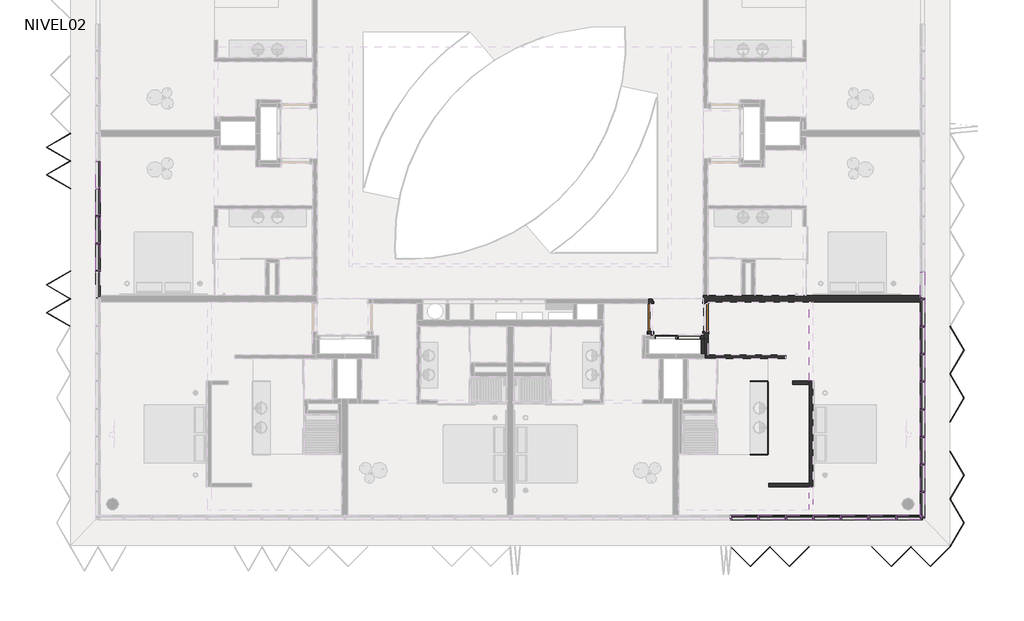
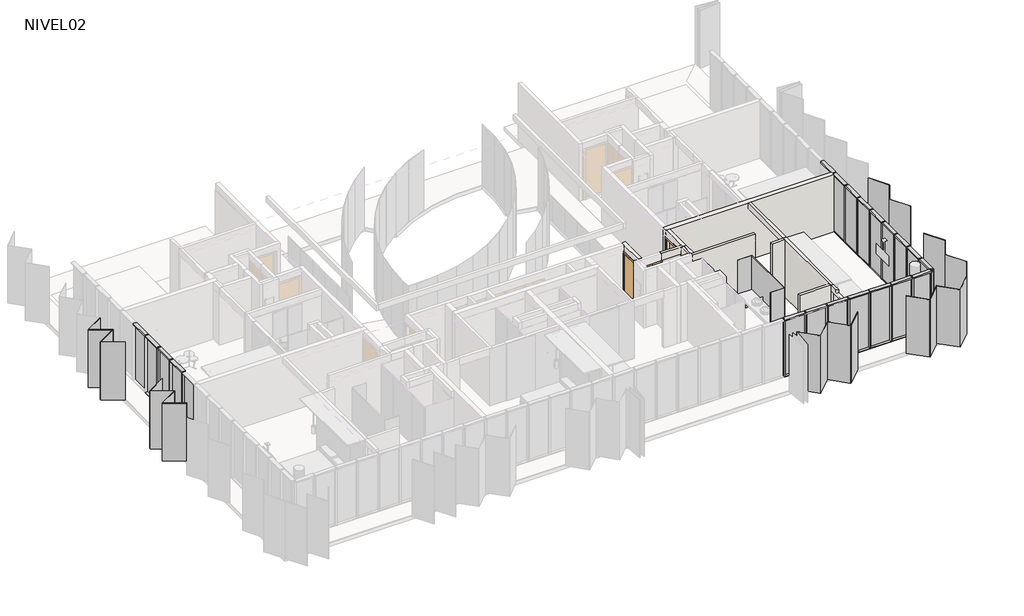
# One storey, part 4 of 9: 59 members, 26 plates, 14 walls, 3 doors.
"""IFC4 building model written with IfcOpenShell, lengths in millimetres."""

from ifc_helpers import new_model, si_unit, frame, origin, place, context, project, spatial, polyline, outline, extrude, faceted_brep, transform, mapped, element, save
from components import m_single_flush_910x_224_a4f79d59, m_single_flush_910x_224_d199ccfa, puerta_closet_shaft_75_x_232cm_9b8c6cb1, rectangular_mullion_50_x_150mm_324a6438, rectangular_mullion_50_x_150mm_d09437e2, rectangular_mullion_50_x_150mm_5dc04e1f, rectangular_mullion_50_x_150mm_33c2bde1, rectangular_mullion_50_x_150mm_da4cfd0d, folding_hd_folding_hd_45_0b72d655, folding_hd_folding_hd_60_29c1f600, plate_a966da8b, system_panel_cr_shower_91adf229, system_panel_cr_shower_8ff19449, system_panel_cr_shower_4114597a, system_panel_glazed_8b1c2311, system_panel_glazed_24c908d7, system_panel_glazed_6ccc6dc1

model = new_model("IFC4")

# Units and contexts
model_context = context("Model", 3, world=origin())
ifc_project = project(units=[si_unit("LENGTHUNIT", "METRE", prefix="MILLI")], contexts=[model_context])

# Site, building, storey
site = spatial("IfcSite", under=ifc_project)
building = spatial("IfcBuilding", under=site)
storey = spatial("IfcBuildingStorey", under=building, Name="NIVEL02", Elevation=2500.0)

# Doors
placement = place(None, origin())
m_single_flush_910x_224_shape = m_single_flush_910x_224_a4f79d59(model_context)
element("IfcDoor", 1, ObjectType="M_Single-Flush : 910x 224", at=placement, inside=storey, context=model_context, shape_type="MappedRepresentation", body=[
    mapped(m_single_flush_910x_224_shape, transform((-2608.5934748, -883.5860759, 2500.0), x_axis=(0.0, 1.0, 0.0), y_axis=(-1.0, 0.0, 0.0), z_axis=(0.0, 0.0, 1.0))),
])
m_single_flush_910x_224_2_shape = m_single_flush_910x_224_d199ccfa(model_context)
element("IfcDoor", 2, ObjectType="M_Single-Flush : 910x 224", at=placement, inside=storey, context=model_context, shape_type="MappedRepresentation", body=[
    mapped(m_single_flush_910x_224_2_shape, transform((-798.5934748, -883.5860759, 2500.0), x_axis=(0.0, 1.0, 0.0), y_axis=(-1.0, 0.0, 0.0), z_axis=(0.0, 0.0, 1.0))),
])
puerta_closet_shaft_75_x_232cm_shape = puerta_closet_shaft_75_x_232cm_9b8c6cb1(model_context)
element("IfcDoor", 3, ObjectType="PUERTA CLOSET SHAFT : 75 x 232cm", at=placement, inside=storey, context=model_context, shape_type="MappedRepresentation", body=[
    mapped(puerta_closet_shaft_75_x_232cm_shape, transform((-947.061904, -1521.0860759, 2500.0), x_axis=(1.0, 0.0, 0.0), y_axis=(0.0, 1.0, 0.0), z_axis=(0.0, 0.0, 1.0))),
])

# Members
rectangular_mullion_50_x_150mm_shape = rectangular_mullion_50_x_150mm_324a6438(model_context)
element("IfcMember", 4, ObjectType="Rectangular Mullion : 50 x 150mm", at=placement, inside=storey, context=model_context, shape_type="MappedRepresentation", body=[
    mapped(rectangular_mullion_50_x_150mm_shape, transform((-20633.5934748, 3358.9139237, 5050.0), x_axis=(0.0, 0.0, 1.0), y_axis=(-1.0, 0.0, 0.0), z_axis=(0.0, -1.0, 0.0))),
])
element("IfcMember", 5, ObjectType="Rectangular Mullion : 50 x 150mm", at=placement, inside=storey, context=model_context, shape_type="MappedRepresentation", body=[
    mapped(rectangular_mullion_50_x_150mm_shape, transform((-20633.5934748, 2458.9139237, 5050.0), x_axis=(0.0, 0.0, 1.0), y_axis=(-1.0, 0.0, 0.0), z_axis=(0.0, -1.0, 0.0))),
])
element("IfcMember", 6, ObjectType="Rectangular Mullion : 50 x 150mm", at=placement, inside=storey, context=model_context, shape_type="MappedRepresentation", body=[
    mapped(rectangular_mullion_50_x_150mm_shape, transform((-20633.5934748, 1558.9139237, 5050.0), x_axis=(0.0, 0.0, 1.0), y_axis=(-1.0, 0.0, 0.0), z_axis=(0.0, -1.0, 0.0))),
])
element("IfcMember", 7, ObjectType="Rectangular Mullion : 50 x 150mm", at=placement, inside=storey, context=model_context, shape_type="MappedRepresentation", body=[
    mapped(rectangular_mullion_50_x_150mm_shape, transform((-20633.5934748, 658.9139237, 5050.0), x_axis=(0.0, 0.0, 1.0), y_axis=(-1.0, 0.0, 0.0), z_axis=(0.0, -1.0, 0.0))),
])
element("IfcMember", 8, ObjectType="Rectangular Mullion : 50 x 150mm", at=placement, inside=storey, context=model_context, shape_type="MappedRepresentation", body=[
    mapped(rectangular_mullion_50_x_150mm_shape, transform((-20633.5934748, 3308.9139237, 2480.0), x_axis=(0.0, 0.0, -1.0), y_axis=(-1.0, 0.0, 0.0), z_axis=(0.0, 1.0, 0.0))),
])
element("IfcMember", 9, ObjectType="Rectangular Mullion : 50 x 150mm", at=placement, inside=storey, context=model_context, shape_type="MappedRepresentation", body=[
    mapped(rectangular_mullion_50_x_150mm_shape, transform((-20633.5934748, 2408.9139237, 2480.0), x_axis=(0.0, 0.0, -1.0), y_axis=(-1.0, 0.0, 0.0), z_axis=(0.0, 1.0, 0.0))),
])
element("IfcMember", 10, ObjectType="Rectangular Mullion : 50 x 150mm", at=placement, inside=storey, context=model_context, shape_type="MappedRepresentation", body=[
    mapped(rectangular_mullion_50_x_150mm_shape, transform((-20633.5934748, 1508.9139237, 2480.0), x_axis=(0.0, 0.0, -1.0), y_axis=(-1.0, 0.0, 0.0), z_axis=(0.0, 1.0, 0.0))),
])
element("IfcMember", 11, ObjectType="Rectangular Mullion : 50 x 150mm", at=placement, inside=storey, context=model_context, shape_type="MappedRepresentation", body=[
    mapped(rectangular_mullion_50_x_150mm_shape, transform((-20633.5934748, 608.9139237, 2480.0), x_axis=(0.0, 0.0, -1.0), y_axis=(-1.0, 0.0, 0.0), z_axis=(0.0, 1.0, 0.0))),
])
element("IfcMember", 12, ObjectType="Rectangular Mullion : 50 x 150mm", at=placement, inside=storey, context=model_context, shape_type="MappedRepresentation", body=[
    mapped(rectangular_mullion_50_x_150mm_shape, transform((1841.4065252, -7416.0860759, 5050.0), x_axis=(0.0, 0.0, 1.0), y_axis=(0.0, 1.0, 0.0), z_axis=(-1.0, 0.0, 0.0))),
])
element("IfcMember", 13, ObjectType="Rectangular Mullion : 50 x 150mm", at=placement, inside=storey, context=model_context, shape_type="MappedRepresentation", body=[
    mapped(rectangular_mullion_50_x_150mm_shape, transform((941.4065252, -7416.0860759, 5050.0), x_axis=(0.0, 0.0, 1.0), y_axis=(0.0, 1.0, 0.0), z_axis=(-1.0, 0.0, 0.0))),
])
element("IfcMember", 14, ObjectType="Rectangular Mullion : 50 x 150mm", at=placement, inside=storey, context=model_context, shape_type="MappedRepresentation", body=[
    mapped(rectangular_mullion_50_x_150mm_shape, transform((41.4065252, -7416.0860759, 5050.0), x_axis=(0.0, 0.0, 1.0), y_axis=(0.0, 1.0, 0.0), z_axis=(-1.0, 0.0, 0.0))),
])
element("IfcMember", 15, ObjectType="Rectangular Mullion : 50 x 150mm", at=placement, inside=storey, context=model_context, shape_type="MappedRepresentation", body=[
    mapped(rectangular_mullion_50_x_150mm_shape, transform((3641.4065252, -7416.0860759, 5050.0), x_axis=(0.0, 0.0, 1.0), y_axis=(0.0, 1.0, 0.0), z_axis=(-1.0, 0.0, 0.0))),
])
element("IfcMember", 16, ObjectType="Rectangular Mullion : 50 x 150mm", at=placement, inside=storey, context=model_context, shape_type="MappedRepresentation", body=[
    mapped(rectangular_mullion_50_x_150mm_shape, transform((2741.4065252, -7416.0860759, 5050.0), x_axis=(0.0, 0.0, 1.0), y_axis=(0.0, 1.0, 0.0), z_axis=(-1.0, 0.0, 0.0))),
])
element("IfcMember", 17, ObjectType="Rectangular Mullion : 50 x 150mm", at=placement, inside=storey, context=model_context, shape_type="MappedRepresentation", body=[
    mapped(rectangular_mullion_50_x_150mm_shape, transform((4541.4065252, -7416.0860759, 5050.0), x_axis=(0.0, 0.0, 1.0), y_axis=(0.0, 1.0, 0.0), z_axis=(-1.0, 0.0, 0.0))),
])
element("IfcMember", 18, ObjectType="Rectangular Mullion : 50 x 150mm", at=placement, inside=storey, context=model_context, shape_type="MappedRepresentation", body=[
    mapped(rectangular_mullion_50_x_150mm_shape, transform((1791.4065252, -7416.0860759, 2480.0), x_axis=(0.0, 0.0, -1.0), y_axis=(0.0, 1.0, 0.0), z_axis=(1.0, 0.0, 0.0))),
])
element("IfcMember", 19, ObjectType="Rectangular Mullion : 50 x 150mm", at=placement, inside=storey, context=model_context, shape_type="MappedRepresentation", body=[
    mapped(rectangular_mullion_50_x_150mm_shape, transform((891.4065252, -7416.0860759, 2480.0), x_axis=(0.0, 0.0, -1.0), y_axis=(0.0, 1.0, 0.0), z_axis=(1.0, 0.0, 0.0))),
])
element("IfcMember", 20, ObjectType="Rectangular Mullion : 50 x 150mm", at=placement, inside=storey, context=model_context, shape_type="MappedRepresentation", body=[
    mapped(rectangular_mullion_50_x_150mm_shape, transform((3591.4065252, -7416.0860759, 2480.0), x_axis=(0.0, 0.0, -1.0), y_axis=(0.0, 1.0, 0.0), z_axis=(1.0, 0.0, 0.0))),
])
element("IfcMember", 21, ObjectType="Rectangular Mullion : 50 x 150mm", at=placement, inside=storey, context=model_context, shape_type="MappedRepresentation", body=[
    mapped(rectangular_mullion_50_x_150mm_shape, transform((2691.4065252, -7416.0860759, 2480.0), x_axis=(0.0, 0.0, -1.0), y_axis=(0.0, 1.0, 0.0), z_axis=(1.0, 0.0, 0.0))),
])
element("IfcMember", 22, ObjectType="Rectangular Mullion : 50 x 150mm", at=placement, inside=storey, context=model_context, shape_type="MappedRepresentation", body=[
    mapped(rectangular_mullion_50_x_150mm_shape, transform((4491.4065252, -7416.0860759, 2480.0), x_axis=(0.0, 0.0, -1.0), y_axis=(0.0, 1.0, 0.0), z_axis=(1.0, 0.0, 0.0))),
])
element("IfcMember", 23, ObjectType="Rectangular Mullion : 50 x 150mm", at=placement, inside=storey, context=model_context, shape_type="MappedRepresentation", body=[
    mapped(rectangular_mullion_50_x_150mm_shape, transform((5391.4065252, -7416.0860759, 2480.0), x_axis=(0.0, 0.0, -1.0), y_axis=(0.0, 1.0, 0.0), z_axis=(1.0, 0.0, 0.0))),
])
rectangular_mullion_50_x_150mm_2_shape = rectangular_mullion_50_x_150mm_d09437e2(model_context)
element("IfcMember", 24, ObjectType="Rectangular Mullion : 50 x 150mm", at=placement, inside=storey, context=model_context, shape_type="MappedRepresentation", body=[
    mapped(rectangular_mullion_50_x_150mm_2_shape, transform((6266.4065252, -7366.0860759, 5050.0), x_axis=(0.0, 0.0, 1.0), y_axis=(-1.0, 0.0, 0.0), z_axis=(0.0, -1.0, 0.0))),
])
element("IfcMember", 25, ObjectType="Rectangular Mullion : 50 x 150mm", at=placement, inside=storey, context=model_context, shape_type="MappedRepresentation", body=[
    mapped(rectangular_mullion_50_x_150mm_shape, transform((6266.4065252, -241.0860763, 5050.0), x_axis=(0.0, 0.0, 1.0), y_axis=(-1.0, 0.0, 0.0), z_axis=(0.0, -1.0, 0.0))),
])
element("IfcMember", 26, ObjectType="Rectangular Mullion : 50 x 150mm", at=placement, inside=storey, context=model_context, shape_type="MappedRepresentation", body=[
    mapped(rectangular_mullion_50_x_150mm_shape, transform((6266.4065252, -1141.0860763, 5050.0), x_axis=(0.0, 0.0, 1.0), y_axis=(-1.0, 0.0, 0.0), z_axis=(0.0, -1.0, 0.0))),
])
element("IfcMember", 27, ObjectType="Rectangular Mullion : 50 x 150mm", at=placement, inside=storey, context=model_context, shape_type="MappedRepresentation", body=[
    mapped(rectangular_mullion_50_x_150mm_shape, transform((6266.4065252, -2041.0860763, 5050.0), x_axis=(0.0, 0.0, 1.0), y_axis=(-1.0, 0.0, 0.0), z_axis=(0.0, -1.0, 0.0))),
])
element("IfcMember", 28, ObjectType="Rectangular Mullion : 50 x 150mm", at=placement, inside=storey, context=model_context, shape_type="MappedRepresentation", body=[
    mapped(rectangular_mullion_50_x_150mm_shape, transform((6266.4065252, -2941.0860763, 5050.0), x_axis=(0.0, 0.0, 1.0), y_axis=(-1.0, 0.0, 0.0), z_axis=(0.0, -1.0, 0.0))),
])
element("IfcMember", 29, ObjectType="Rectangular Mullion : 50 x 150mm", at=placement, inside=storey, context=model_context, shape_type="MappedRepresentation", body=[
    mapped(rectangular_mullion_50_x_150mm_shape, transform((6266.4065252, -3841.0860763, 5050.0), x_axis=(0.0, 0.0, 1.0), y_axis=(-1.0, 0.0, 0.0), z_axis=(0.0, -1.0, 0.0))),
])
element("IfcMember", 30, ObjectType="Rectangular Mullion : 50 x 150mm", at=placement, inside=storey, context=model_context, shape_type="MappedRepresentation", body=[
    mapped(rectangular_mullion_50_x_150mm_shape, transform((6266.4065252, -4741.0860763, 5050.0), x_axis=(0.0, 0.0, 1.0), y_axis=(-1.0, 0.0, 0.0), z_axis=(0.0, -1.0, 0.0))),
])
element("IfcMember", 31, ObjectType="Rectangular Mullion : 50 x 150mm", at=placement, inside=storey, context=model_context, shape_type="MappedRepresentation", body=[
    mapped(rectangular_mullion_50_x_150mm_shape, transform((6266.4065252, -5641.0860763, 5050.0), x_axis=(0.0, 0.0, 1.0), y_axis=(-1.0, 0.0, 0.0), z_axis=(0.0, -1.0, 0.0))),
])
element("IfcMember", 32, ObjectType="Rectangular Mullion : 50 x 150mm", at=placement, inside=storey, context=model_context, shape_type="MappedRepresentation", body=[
    mapped(rectangular_mullion_50_x_150mm_shape, transform((6266.4065252, -6541.0860763, 5050.0), x_axis=(0.0, 0.0, 1.0), y_axis=(-1.0, 0.0, 0.0), z_axis=(0.0, -1.0, 0.0))),
])
element("IfcMember", 33, ObjectType="Rectangular Mullion : 50 x 150mm", at=placement, inside=storey, context=model_context, shape_type="MappedRepresentation", body=[
    mapped(rectangular_mullion_50_x_150mm_shape, transform((6266.4065252, -291.0860763, 2480.0), x_axis=(0.0, 0.0, -1.0), y_axis=(-1.0, 0.0, 0.0), z_axis=(0.0, 1.0, 0.0))),
])
element("IfcMember", 34, ObjectType="Rectangular Mullion : 50 x 150mm", at=placement, inside=storey, context=model_context, shape_type="MappedRepresentation", body=[
    mapped(rectangular_mullion_50_x_150mm_shape, transform((6266.4065252, -1191.0860763, 2480.0), x_axis=(0.0, 0.0, -1.0), y_axis=(-1.0, 0.0, 0.0), z_axis=(0.0, 1.0, 0.0))),
])
element("IfcMember", 35, ObjectType="Rectangular Mullion : 50 x 150mm", at=placement, inside=storey, context=model_context, shape_type="MappedRepresentation", body=[
    mapped(rectangular_mullion_50_x_150mm_shape, transform((6266.4065252, -2091.0860763, 2480.0), x_axis=(0.0, 0.0, -1.0), y_axis=(-1.0, 0.0, 0.0), z_axis=(0.0, 1.0, 0.0))),
])
element("IfcMember", 36, ObjectType="Rectangular Mullion : 50 x 150mm", at=placement, inside=storey, context=model_context, shape_type="MappedRepresentation", body=[
    mapped(rectangular_mullion_50_x_150mm_shape, transform((6266.4065252, -2991.0860763, 2480.0), x_axis=(0.0, 0.0, -1.0), y_axis=(-1.0, 0.0, 0.0), z_axis=(0.0, 1.0, 0.0))),
])
element("IfcMember", 37, ObjectType="Rectangular Mullion : 50 x 150mm", at=placement, inside=storey, context=model_context, shape_type="MappedRepresentation", body=[
    mapped(rectangular_mullion_50_x_150mm_shape, transform((6266.4065252, -3891.0860763, 2480.0), x_axis=(0.0, 0.0, -1.0), y_axis=(-1.0, 0.0, 0.0), z_axis=(0.0, 1.0, 0.0))),
])
element("IfcMember", 38, ObjectType="Rectangular Mullion : 50 x 150mm", at=placement, inside=storey, context=model_context, shape_type="MappedRepresentation", body=[
    mapped(rectangular_mullion_50_x_150mm_shape, transform((6266.4065252, -4791.0860763, 2480.0), x_axis=(0.0, 0.0, -1.0), y_axis=(-1.0, 0.0, 0.0), z_axis=(0.0, 1.0, 0.0))),
])
element("IfcMember", 39, ObjectType="Rectangular Mullion : 50 x 150mm", at=placement, inside=storey, context=model_context, shape_type="MappedRepresentation", body=[
    mapped(rectangular_mullion_50_x_150mm_shape, transform((6266.4065252, -5691.0860763, 2480.0), x_axis=(0.0, 0.0, -1.0), y_axis=(-1.0, 0.0, 0.0), z_axis=(0.0, 1.0, 0.0))),
])
element("IfcMember", 40, ObjectType="Rectangular Mullion : 50 x 150mm", at=placement, inside=storey, context=model_context, shape_type="MappedRepresentation", body=[
    mapped(rectangular_mullion_50_x_150mm_2_shape, transform((6266.4065252, -6591.0860763, 2480.0), x_axis=(0.0, 0.0, -1.0), y_axis=(-1.0, 0.0, 0.0), z_axis=(0.0, 1.0, 0.0))),
])
rectangular_mullion_50_x_150mm_3_shape = rectangular_mullion_50_x_150mm_5dc04e1f(model_context)
element("IfcMember", 41, ObjectType="Rectangular Mullion : 50 x 150mm", at=placement, inside=storey, context=model_context, shape_type="MappedRepresentation", body=[
    mapped(rectangular_mullion_50_x_150mm_3_shape, transform((5441.4065252, -7416.0860759, 5050.0), x_axis=(0.0, 0.0, 1.0), y_axis=(0.0, 1.0, 0.0), z_axis=(-1.0, 0.0, 0.0))),
])
element("IfcMember", 42, ObjectType="Rectangular Mullion : 50 x 150mm", at=placement, inside=storey, context=model_context, shape_type="MappedRepresentation", body=[
    mapped(rectangular_mullion_50_x_150mm_3_shape, transform((6216.4065252, -7416.0860759, 2480.0), x_axis=(0.0, 0.0, -1.0), y_axis=(0.0, 1.0, 0.0), z_axis=(1.0, 0.0, 0.0))),
])
rectangular_mullion_50_x_150mm_4_shape = rectangular_mullion_50_x_150mm_33c2bde1(model_context)
element("IfcMember", 43, ObjectType="Rectangular Mullion : 50 x 150mm", at=placement, inside=storey, context=model_context, shape_type="MappedRepresentation", body=[
    mapped(rectangular_mullion_50_x_150mm_4_shape, transform((-20633.5934748, 2433.9139237, 2480.0), x_axis=(0.0, -1.0, 0.0), y_axis=(-1.0, 0.0, 0.0), z_axis=(0.0, 0.0, -1.0))),
])
element("IfcMember", 44, ObjectType="Rectangular Mullion : 50 x 150mm", at=placement, inside=storey, context=model_context, shape_type="MappedRepresentation", body=[
    mapped(rectangular_mullion_50_x_150mm_4_shape, transform((-20633.5934748, 1533.9139237, 2480.0), x_axis=(0.0, -1.0, 0.0), y_axis=(-1.0, 0.0, 0.0), z_axis=(0.0, 0.0, -1.0))),
])
element("IfcMember", 45, ObjectType="Rectangular Mullion : 50 x 150mm", at=placement, inside=storey, context=model_context, shape_type="MappedRepresentation", body=[
    mapped(rectangular_mullion_50_x_150mm_4_shape, transform((-20633.5934748, 633.9139237, 2480.0), x_axis=(0.0, -1.0, 0.0), y_axis=(-1.0, 0.0, 0.0), z_axis=(0.0, 0.0, -1.0))),
])
element("IfcMember", 46, ObjectType="Rectangular Mullion : 50 x 150mm", at=placement, inside=storey, context=model_context, shape_type="MappedRepresentation", body=[
    mapped(rectangular_mullion_50_x_150mm_4_shape, transform((1816.4065252, -7416.0860759, 2480.0), x_axis=(-1.0, 0.0, 0.0), y_axis=(0.0, 1.0, 0.0), z_axis=(0.0, 0.0, -1.0))),
])
element("IfcMember", 47, ObjectType="Rectangular Mullion : 50 x 150mm", at=placement, inside=storey, context=model_context, shape_type="MappedRepresentation", body=[
    mapped(rectangular_mullion_50_x_150mm_4_shape, transform((916.4065252, -7416.0860759, 2480.0), x_axis=(-1.0, 0.0, 0.0), y_axis=(0.0, 1.0, 0.0), z_axis=(0.0, 0.0, -1.0))),
])
element("IfcMember", 48, ObjectType="Rectangular Mullion : 50 x 150mm", at=placement, inside=storey, context=model_context, shape_type="MappedRepresentation", body=[
    mapped(rectangular_mullion_50_x_150mm_4_shape, transform((16.4065252, -7416.0860759, 2480.0), x_axis=(-1.0, 0.0, 0.0), y_axis=(0.0, 1.0, 0.0), z_axis=(0.0, 0.0, -1.0))),
])
element("IfcMember", 49, ObjectType="Rectangular Mullion : 50 x 150mm", at=placement, inside=storey, context=model_context, shape_type="MappedRepresentation", body=[
    mapped(rectangular_mullion_50_x_150mm_4_shape, transform((2716.4065252, -7416.0860759, 2480.0), x_axis=(-1.0, 0.0, 0.0), y_axis=(0.0, 1.0, 0.0), z_axis=(0.0, 0.0, -1.0))),
])
element("IfcMember", 50, ObjectType="Rectangular Mullion : 50 x 150mm", at=placement, inside=storey, context=model_context, shape_type="MappedRepresentation", body=[
    mapped(rectangular_mullion_50_x_150mm_4_shape, transform((3616.4065252, -7416.0860759, 2480.0), x_axis=(-1.0, 0.0, 0.0), y_axis=(0.0, 1.0, 0.0), z_axis=(0.0, 0.0, -1.0))),
])
element("IfcMember", 51, ObjectType="Rectangular Mullion : 50 x 150mm", at=placement, inside=storey, context=model_context, shape_type="MappedRepresentation", body=[
    mapped(rectangular_mullion_50_x_150mm_4_shape, transform((4516.4065252, -7416.0860759, 2480.0), x_axis=(-1.0, 0.0, 0.0), y_axis=(0.0, 1.0, 0.0), z_axis=(0.0, 0.0, -1.0))),
])
element("IfcMember", 52, ObjectType="Rectangular Mullion : 50 x 150mm", at=placement, inside=storey, context=model_context, shape_type="MappedRepresentation", body=[
    mapped(rectangular_mullion_50_x_150mm_4_shape, transform((5416.4065252, -7416.0860759, 2480.0), x_axis=(-1.0, 0.0, 0.0), y_axis=(0.0, 1.0, 0.0), z_axis=(0.0, 0.0, -1.0))),
])
rectangular_mullion_50_x_150mm_5_shape = rectangular_mullion_50_x_150mm_da4cfd0d(model_context)
element("IfcMember", 53, ObjectType="Rectangular Mullion : 50 x 150mm", at=placement, inside=storey, context=model_context, shape_type="MappedRepresentation", body=[
    mapped(rectangular_mullion_50_x_150mm_5_shape, transform((6266.4065252, -7416.0860759, 5050.0), x_axis=(1.0, 0.0, 0.0), y_axis=(0.0, 1.0, 0.0), z_axis=(0.0, 0.0, 1.0))),
])
element("IfcMember", 54, ObjectType="Rectangular Mullion : 50 x 150mm", at=placement, inside=storey, context=model_context, shape_type="MappedRepresentation", body=[
    mapped(rectangular_mullion_50_x_150mm_4_shape, transform((6266.4065252, -266.0860763, 2480.0), x_axis=(0.0, -1.0, 0.0), y_axis=(-1.0, 0.0, 0.0), z_axis=(0.0, 0.0, -1.0))),
])
element("IfcMember", 55, ObjectType="Rectangular Mullion : 50 x 150mm", at=placement, inside=storey, context=model_context, shape_type="MappedRepresentation", body=[
    mapped(rectangular_mullion_50_x_150mm_4_shape, transform((6266.4065252, -1166.0860763, 2480.0), x_axis=(0.0, -1.0, 0.0), y_axis=(-1.0, 0.0, 0.0), z_axis=(0.0, 0.0, -1.0))),
])
element("IfcMember", 56, ObjectType="Rectangular Mullion : 50 x 150mm", at=placement, inside=storey, context=model_context, shape_type="MappedRepresentation", body=[
    mapped(rectangular_mullion_50_x_150mm_4_shape, transform((6266.4065252, -2066.0860763, 2480.0), x_axis=(0.0, -1.0, 0.0), y_axis=(-1.0, 0.0, 0.0), z_axis=(0.0, 0.0, -1.0))),
])
element("IfcMember", 57, ObjectType="Rectangular Mullion : 50 x 150mm", at=placement, inside=storey, context=model_context, shape_type="MappedRepresentation", body=[
    mapped(rectangular_mullion_50_x_150mm_4_shape, transform((6266.4065252, -2966.0860763, 2480.0), x_axis=(0.0, -1.0, 0.0), y_axis=(-1.0, 0.0, 0.0), z_axis=(0.0, 0.0, -1.0))),
])
element("IfcMember", 58, ObjectType="Rectangular Mullion : 50 x 150mm", at=placement, inside=storey, context=model_context, shape_type="MappedRepresentation", body=[
    mapped(rectangular_mullion_50_x_150mm_4_shape, transform((6266.4065252, -3866.0860763, 2480.0), x_axis=(0.0, -1.0, 0.0), y_axis=(-1.0, 0.0, 0.0), z_axis=(0.0, 0.0, -1.0))),
])
element("IfcMember", 59, ObjectType="Rectangular Mullion : 50 x 150mm", at=placement, inside=storey, context=model_context, shape_type="MappedRepresentation", body=[
    mapped(rectangular_mullion_50_x_150mm_4_shape, transform((6266.4065252, -4766.0860763, 2480.0), x_axis=(0.0, -1.0, 0.0), y_axis=(-1.0, 0.0, 0.0), z_axis=(0.0, 0.0, -1.0))),
])
element("IfcMember", 60, ObjectType="Rectangular Mullion : 50 x 150mm", at=placement, inside=storey, context=model_context, shape_type="MappedRepresentation", body=[
    mapped(rectangular_mullion_50_x_150mm_4_shape, transform((6266.4065252, -5666.0860763, 2480.0), x_axis=(0.0, -1.0, 0.0), y_axis=(-1.0, 0.0, 0.0), z_axis=(0.0, 0.0, -1.0))),
])
element("IfcMember", 61, ObjectType="Rectangular Mullion : 50 x 150mm", at=placement, inside=storey, context=model_context, shape_type="MappedRepresentation", body=[
    mapped(rectangular_mullion_50_x_150mm_4_shape, transform((6266.4065252, -6566.0860763, 2480.0), x_axis=(0.0, -1.0, 0.0), y_axis=(-1.0, 0.0, 0.0), z_axis=(0.0, 0.0, -1.0))),
])
element("IfcMember", 62, ObjectType="Rectangular Mullion : 50 x 150mm", at=placement, inside=storey, context=model_context, shape_type="MappedRepresentation", body=[
    mapped(rectangular_mullion_50_x_150mm_5_shape, transform((6266.4065252, -7416.0860759, 2480.0), x_axis=(0.0, -1.0, 0.0), y_axis=(-1.0, 0.0, 0.0), z_axis=(0.0, 0.0, -1.0))),
])

# Plates
folding_hd_folding_hd_45_shape = folding_hd_folding_hd_45_0b72d655(model_context)
element("IfcPlate", 63, ObjectType="FOLDING HD : FOLDING HD 45", at=placement, inside=storey, context=model_context, shape_type="MappedRepresentation", body=[
    mapped(folding_hd_folding_hd_45_shape, transform((3591.4065252, -8366.0860759, 2480.0), x_axis=(-1.0, 0.0, 0.0), y_axis=(0.0, -1.0, 0.0), z_axis=(0.0, 0.0, 1.0))),
])
folding_hd_folding_hd_60_shape = folding_hd_folding_hd_60_29c1f600(model_context)
element("IfcPlate", 64, ObjectType="FOLDING HD : FOLDING HD 60", at=placement, inside=storey, context=model_context, shape_type="MappedRepresentation", body=[
    mapped(folding_hd_folding_hd_60_shape, transform((-21533.5934748, 1983.9139241, 2480.0), x_axis=(0.0, -1.0, 0.0), y_axis=(1.0, 0.0, 0.0), z_axis=(0.0, 0.0, 1.0))),
])
plate_shape = plate_a966da8b(model_context)
element("IfcPlate", 65, ObjectType="FOLDING HD : FOLDING HD-90_30\"", at=placement, inside=storey, context=model_context, shape_type="MappedRepresentation", body=[
    mapped(plate_shape, transform((7166.4065252, -4766.0860759, 2480.0), x_axis=(0.0, -1.0, 0.0), y_axis=(1.0, 0.0, 0.0), z_axis=(0.0, 0.0, 1.0))),
])
system_panel_cr_shower_shape = system_panel_cr_shower_91adf229(model_context)
element("IfcPlate", 66, ObjectType="System Panel : CR-SHOWER", at=placement, inside=storey, context=model_context, shape_type="MappedRepresentation", body=[
    mapped(system_panel_cr_shower_shape, transform((1226.4065252, -4164.8462541, 2500.0), x_axis=(0.0, 1.0, 0.0), y_axis=(-1.0, 0.0, 0.0), z_axis=(0.0, 0.0, 1.0))),
])
system_panel_cr_shower_2_shape = system_panel_cr_shower_8ff19449(model_context)
element("IfcPlate", 67, ObjectType="System Panel : CR-SHOWER", at=placement, inside=storey, context=model_context, shape_type="MappedRepresentation", body=[
    mapped(system_panel_cr_shower_2_shape, transform((936.4065252, -2966.0860763, 2500.0), x_axis=(1.0, 0.0, 0.0), y_axis=(0.0, 1.0, 0.0), z_axis=(0.0, 0.0, 1.0))),
])
system_panel_cr_shower_3_shape = system_panel_cr_shower_4114597a(model_context)
element("IfcPlate", 68, ObjectType="System Panel : CR-SHOWER", at=placement, inside=storey, context=model_context, shape_type="MappedRepresentation", body=[
    mapped(system_panel_cr_shower_3_shape, transform((936.4065252, -5348.5862189, 2500.0), x_axis=(1.0, 0.0, 0.0), y_axis=(0.0, 1.0, 0.0), z_axis=(0.0, 0.0, 1.0))),
])
system_panel_glazed_shape = system_panel_glazed_8b1c2311(model_context)
element("IfcPlate", 69, ObjectType="System Panel : Glazed", at=placement, inside=storey, context=model_context, shape_type="MappedRepresentation", body=[
    mapped(system_panel_glazed_shape, transform((-20633.5934748, 3783.9139237, 2530.0), x_axis=(0.0, -1.0, 0.0), y_axis=(1.0, 0.0, 0.0), z_axis=(0.0, 0.0, 1.0))),
])
element("IfcPlate", 70, ObjectType="System Panel : Glazed", at=placement, inside=storey, context=model_context, shape_type="MappedRepresentation", body=[
    mapped(system_panel_glazed_shape, transform((-20633.5934748, 2883.9139237, 2530.0), x_axis=(0.0, -1.0, 0.0), y_axis=(1.0, 0.0, 0.0), z_axis=(0.0, 0.0, 1.0))),
])
element("IfcPlate", 71, ObjectType="System Panel : Glazed", at=placement, inside=storey, context=model_context, shape_type="MappedRepresentation", body=[
    mapped(system_panel_glazed_shape, transform((-20633.5934748, 1983.9139237, 2530.0), x_axis=(0.0, -1.0, 0.0), y_axis=(1.0, 0.0, 0.0), z_axis=(0.0, 0.0, 1.0))),
])
element("IfcPlate", 72, ObjectType="System Panel : Glazed", at=placement, inside=storey, context=model_context, shape_type="MappedRepresentation", body=[
    mapped(system_panel_glazed_shape, transform((-20633.5934748, 1083.9139237, 2530.0), x_axis=(0.0, -1.0, 0.0), y_axis=(1.0, 0.0, 0.0), z_axis=(0.0, 0.0, 1.0))),
])
element("IfcPlate", 73, ObjectType="System Panel : Glazed", at=placement, inside=storey, context=model_context, shape_type="MappedRepresentation", body=[
    mapped(system_panel_glazed_shape, transform((-20633.5934748, 183.9139237, 2530.0), x_axis=(0.0, -1.0, 0.0), y_axis=(1.0, 0.0, 0.0), z_axis=(0.0, 0.0, 1.0))),
])
system_panel_glazed_2_shape = system_panel_glazed_24c908d7(model_context)
element("IfcPlate", 74, ObjectType="System Panel : Glazed", at=placement, inside=storey, context=model_context, shape_type="MappedRepresentation", body=[
    mapped(system_panel_glazed_2_shape, transform((5828.9065252, -7416.0860759, 2530.0), x_axis=(-1.0, 0.0, 0.0), y_axis=(0.0, -1.0, 0.0), z_axis=(0.0, 0.0, 1.0))),
])
element("IfcPlate", 75, ObjectType="System Panel : Glazed", at=placement, inside=storey, context=model_context, shape_type="MappedRepresentation", body=[
    mapped(system_panel_glazed_2_shape, transform((6266.4065252, -6978.5860761, 2530.0), x_axis=(0.0, -1.0, 0.0), y_axis=(1.0, 0.0, 0.0), z_axis=(0.0, 0.0, 1.0))),
])
system_panel_glazed_3_shape = system_panel_glazed_6ccc6dc1(model_context)
element("IfcPlate", 76, ObjectType="System Panel : Glazed", at=placement, inside=storey, context=model_context, shape_type="MappedRepresentation", body=[
    mapped(system_panel_glazed_3_shape, transform((1366.4065252, -7416.0860759, 2530.0), x_axis=(-1.0, 0.0, 0.0), y_axis=(0.0, -1.0, 0.0), z_axis=(0.0, 0.0, 1.0))),
])
element("IfcPlate", 77, ObjectType="System Panel : Glazed", at=placement, inside=storey, context=model_context, shape_type="MappedRepresentation", body=[
    mapped(system_panel_glazed_3_shape, transform((466.4065252, -7416.0860759, 2530.0), x_axis=(-1.0, 0.0, 0.0), y_axis=(0.0, -1.0, 0.0), z_axis=(0.0, 0.0, 1.0))),
])
element("IfcPlate", 78, ObjectType="System Panel : Glazed", at=placement, inside=storey, context=model_context, shape_type="MappedRepresentation", body=[
    mapped(system_panel_glazed_3_shape, transform((2266.4065252, -7416.0860759, 2530.0), x_axis=(-1.0, 0.0, 0.0), y_axis=(0.0, -1.0, 0.0), z_axis=(0.0, 0.0, 1.0))),
])
element("IfcPlate", 79, ObjectType="System Panel : Glazed", at=placement, inside=storey, context=model_context, shape_type="MappedRepresentation", body=[
    mapped(system_panel_glazed_3_shape, transform((3166.4065252, -7416.0860759, 2530.0), x_axis=(-1.0, 0.0, 0.0), y_axis=(0.0, -1.0, 0.0), z_axis=(0.0, 0.0, 1.0))),
])
element("IfcPlate", 80, ObjectType="System Panel : Glazed", at=placement, inside=storey, context=model_context, shape_type="MappedRepresentation", body=[
    mapped(system_panel_glazed_3_shape, transform((4066.4065252, -7416.0860759, 2530.0), x_axis=(-1.0, 0.0, 0.0), y_axis=(0.0, -1.0, 0.0), z_axis=(0.0, 0.0, 1.0))),
])
element("IfcPlate", 81, ObjectType="System Panel : Glazed", at=placement, inside=storey, context=model_context, shape_type="MappedRepresentation", body=[
    mapped(system_panel_glazed_3_shape, transform((4966.4065252, -7416.0860759, 2530.0), x_axis=(-1.0, 0.0, 0.0), y_axis=(0.0, -1.0, 0.0), z_axis=(0.0, 0.0, 1.0))),
])
element("IfcPlate", 82, ObjectType="System Panel : Glazed", at=placement, inside=storey, context=model_context, shape_type="MappedRepresentation", body=[
    mapped(system_panel_glazed_3_shape, transform((6266.4065252, -716.0860763, 2530.0), x_axis=(0.0, -1.0, 0.0), y_axis=(1.0, 0.0, 0.0), z_axis=(0.0, 0.0, 1.0))),
])
element("IfcPlate", 83, ObjectType="System Panel : Glazed", at=placement, inside=storey, context=model_context, shape_type="MappedRepresentation", body=[
    mapped(system_panel_glazed_3_shape, transform((6266.4065252, -1616.0860763, 2530.0), x_axis=(0.0, -1.0, 0.0), y_axis=(1.0, 0.0, 0.0), z_axis=(0.0, 0.0, 1.0))),
])
element("IfcPlate", 84, ObjectType="System Panel : Glazed", at=placement, inside=storey, context=model_context, shape_type="MappedRepresentation", body=[
    mapped(system_panel_glazed_3_shape, transform((6266.4065252, -2516.0860763, 2530.0), x_axis=(0.0, -1.0, 0.0), y_axis=(1.0, 0.0, 0.0), z_axis=(0.0, 0.0, 1.0))),
])
element("IfcPlate", 85, ObjectType="System Panel : Glazed", at=placement, inside=storey, context=model_context, shape_type="MappedRepresentation", body=[
    mapped(system_panel_glazed_3_shape, transform((6266.4065252, -3416.0860763, 2530.0), x_axis=(0.0, -1.0, 0.0), y_axis=(1.0, 0.0, 0.0), z_axis=(0.0, 0.0, 1.0))),
])
element("IfcPlate", 86, ObjectType="System Panel : Glazed", at=placement, inside=storey, context=model_context, shape_type="MappedRepresentation", body=[
    mapped(system_panel_glazed_3_shape, transform((6266.4065252, -4316.0860763, 2530.0), x_axis=(0.0, -1.0, 0.0), y_axis=(1.0, 0.0, 0.0), z_axis=(0.0, 0.0, 1.0))),
])
element("IfcPlate", 87, ObjectType="System Panel : Glazed", at=placement, inside=storey, context=model_context, shape_type="MappedRepresentation", body=[
    mapped(system_panel_glazed_3_shape, transform((6266.4065252, -5216.0860763, 2530.0), x_axis=(0.0, -1.0, 0.0), y_axis=(1.0, 0.0, 0.0), z_axis=(0.0, 0.0, 1.0))),
])
element("IfcPlate", 88, ObjectType="System Panel : Glazed", at=placement, inside=storey, context=model_context, shape_type="MappedRepresentation", body=[
    mapped(system_panel_glazed_3_shape, transform((6266.4065252, -6116.0860763, 2530.0), x_axis=(0.0, -1.0, 0.0), y_axis=(1.0, 0.0, 0.0), z_axis=(0.0, 0.0, 1.0))),
])

# Walls
element("IfcWall", 89, ObjectType="SCV.TI.A.150.120.212.47.1", at=placement, inside=storey, context=model_context, shape_type="Brep", body=[
    faceted_brep([(-2683.5934748, -1466.0860759, 5050.0), (-2683.5934748, -416.0860759, 5050.0), (-2683.5934748, -266.0860759, 5050.0), (-2683.5934748, -266.0860759, 2500.0), (-2683.5934748, -426.0860759, 2500.0), (-2683.5934748, -426.0860759, 4700.0), (-2683.5934748, -1341.0860759, 4700.0), (-2683.5934748, -1341.0860759, 2500.0), (-2683.5934748, -1466.0860759, 2500.0), (-2533.5934748, -266.0860759, 5050.0), (-2533.5934748, -1466.0860759, 5050.0), (-2533.5934748, -1466.0860759, 2500.0), (-2533.5934748, -1341.0860759, 2500.0), (-2533.5934748, -1341.0860759, 4700.0), (-2533.5934748, -426.0860759, 4700.0), (-2533.5934748, -426.0860759, 2500.0), (-2533.5934748, -266.0860759, 2500.0)], [[[0, 1, 2, 3, 4, 5, 6, 7, 8]], [[9, 10, 11, 12, 13, 14, 15, 16]], [[3, 16, 15, 4]], [[11, 8, 7, 12]], [[2, 1, 0, 10, 9]], [[5, 14, 13, 6]], [[6, 13, 12, 7]], [[14, 5, 4, 15]], [[3, 2, 9, 16]], [[0, 8, 11, 10]]]),
])
element("IfcWall", 90, ObjectType="SCV.TI.A.110.090.143.47.1", at=placement, inside=storey, context=model_context, shape_type="Brep", body=[
    faceted_brep([(-833.5934748, -2216.0860759, 2480.0), (1806.4065252, -2216.0860759, 2480.0), (1806.4065252, -2216.0860759, 5050.0), (-833.5934748, -2216.0860759, 5050.0), (-833.5934748, -2106.0860759, 2480.0), (-833.5934748, -2106.0860759, 5050.0), (-723.5934748, -2106.0860759, 5050.0), (1806.4065252, -2106.0860759, 5050.0), (1806.4065252, -2106.0860759, 2480.0), (-723.5934748, -2106.0860759, 2480.0)], [[[0, 1, 2, 3]], [[4, 5, 6, 7, 8, 9]], [[1, 0, 4, 9, 8]], [[2, 1, 8, 7]], [[3, 2, 7, 6, 5]], [[0, 3, 5, 4]]]),
])
element("IfcWall", 91, ObjectType="SCV.TI.A.110.090.143.47.1", at=placement, inside=storey, context=model_context, shape_type="Brep", body=[
    faceted_brep([(-873.5934748, -1466.0860759, 2480.0), (-1778.029983, -1466.0860759, 2480.0), (-1778.029983, -1466.0860759, 2500.0), (-963.5934748, -1466.0860759, 2500.0), (-963.5934748, -1466.0860759, 4740.0), (-1778.029983, -1466.0860759, 4740.0), (-1778.029983, -1466.0860759, 5050.0), (-873.5934748, -1466.0860759, 5050.0), (-1778.029983, -1576.0860759, 2480.0), (-943.5934748, -1576.0860759, 2480.0), (-873.5934748, -1576.0860759, 2480.0), (-873.5934748, -1576.0860759, 5050.0), (-943.5934748, -1576.0860759, 5050.0), (-1778.029983, -1576.0860759, 5050.0), (-1778.029983, -1576.0860759, 4740.0), (-963.5934748, -1576.0860759, 4740.0), (-963.5934748, -1576.0860759, 2500.0), (-1778.029983, -1576.0860759, 2500.0)], [[[0, 1, 2, 3, 4, 5, 6, 7]], [[8, 9, 10, 11, 12, 13, 14, 15, 16, 17]], [[1, 0, 10, 9, 8]], [[1, 8, 17, 2]], [[13, 6, 5, 14]], [[7, 6, 13, 12, 11]], [[4, 15, 14, 5]], [[16, 3, 2, 17]], [[3, 16, 15, 4]], [[0, 7, 11, 10]]]),
])
element("IfcWall", 92, ObjectType="SCV.TI.A.150.120.212.47.1", at=placement, inside=storey, context=model_context, shape_type="Brep", body=[
    faceted_brep([(-873.5934748, -366.0860759, 2480.0), (-873.5934748, -1466.0860759, 2480.0), (-873.5934748, -1576.0860759, 2480.0), (-873.5934748, -1576.0860759, 5050.0), (-873.5934748, -1466.0860759, 5050.0), (-873.5934748, -366.0860759, 5050.0), (-873.5934748, -1341.0860759, 2500.0), (-873.5934748, -426.0860759, 2500.0), (-873.5934748, -426.0860759, 4700.0), (-873.5934748, -1341.0860759, 4700.0), (-723.5934748, -1576.0860759, 2480.0), (-723.5934748, -366.0860759, 2480.0), (-723.5934748, -366.0860759, 5050.0), (-723.5934748, -1576.0860759, 5050.0), (-723.5934748, -426.0860759, 2500.0), (-723.5934748, -1341.0860759, 2500.0), (-723.5934748, -1341.0860759, 4700.0), (-723.5934748, -426.0860759, 4700.0), (-833.5934748, -1576.0860759, 2480.0), (-833.5934748, -1576.0860759, 5050.0)], [[[0, 1, 2, 3, 4, 5], [6, 7, 8, 9]], [[10, 11, 12, 13], [14, 15, 16, 17]], [[2, 1, 0, 11, 10, 18]], [[5, 4, 3, 19, 13, 12]], [[6, 15, 14, 7]], [[8, 17, 16, 9]], [[15, 6, 9, 16]], [[17, 8, 7, 14]], [[3, 2, 18, 10, 13, 19]], [[0, 5, 12, 11]]]),
])
element("IfcWall", 93, ObjectType="SCV.TI.A.110.090.143.47.1", at=placement, inside=storey, context=model_context, shape_type="SweptSolid", body=[
    extrude(outline(polyline([(2576.4065252, -3061.0658633), (2035.2962079, -3061.0658633), (2035.2962079, -2951.0658633), (2576.4065252, -2951.0658633), (2576.4065252, -3061.0658633)])), frame((0.0, 0.0, 2480.0), z_axis=(0.0, 0.0, 1.0), x_axis=(1.0, 0.0, 0.0)), (0.0, 0.0, 1.0), 2570.0),
])
element("IfcWall", 94, ObjectType="SCV.TI.A.110.090.143.47.1", at=placement, inside=storey, context=model_context, shape_type="Brep", body=[
    faceted_brep([(2686.4065252, -6411.0658633, 5050.0), (2686.4065252, -6411.0658633, 4750.0), (2686.4065252, -6411.0658633, 2480.0), (2686.4065252, -2951.0658633, 2480.0), (2686.4065252, -2951.0658633, 4750.0), (2686.4065252, -2951.0658633, 5050.0), (2576.4065252, -6411.0658633, 2480.0), (2576.4065252, -6411.0658633, 4750.0), (2576.4065252, -6411.0658633, 5050.0), (2576.4065252, -6301.0658633, 5050.0), (2576.4065252, -3061.0658633, 5050.0), (2576.4065252, -2951.0658633, 5050.0), (2576.4065252, -2951.0658633, 4750.0), (2576.4065252, -2951.0658633, 2480.0), (2576.4065252, -3061.0658633, 2480.0), (2576.4065252, -6301.0658633, 2480.0)], [[[0, 1, 2, 3, 4, 5]], [[6, 7, 8, 9, 10, 11, 12, 13, 14, 15]], [[3, 2, 6, 15, 14, 13]], [[0, 5, 11, 10, 9, 8]], [[0, 8, 7, 6, 2, 1]], [[3, 13, 12, 11, 5, 4]]]),
])
element("IfcWall", 95, ObjectType="SCV.TI.A.110.090.143.47.1", at=placement, inside=storey, context=model_context, shape_type="SweptSolid", body=[
    extrude(outline(polyline([(2576.4065252, -6411.0658633), (1257.7462079, -6411.0658633), (1257.7462079, -6301.0658633), (2576.4065252, -6301.0658633), (2576.4065252, -6411.0658633)])), frame((0.0, 0.0, 2480.0), z_axis=(0.0, 0.0, 1.0), x_axis=(1.0, 0.0, 0.0)), (0.0, 0.0, 1.0), 2570.0),
])
element("IfcWall", 96, ObjectType="SCV.TI.A.110.090.143.47.1 2", at=placement, inside=storey, context=model_context, shape_type="SweptSolid", body=[
    extrude(outline(polyline([(2686.4065252, -366.0860759), (2686.4065252, -2951.0658633), (2576.4065252, -2951.0658633), (2576.4065252, -366.0860759), (2686.4065252, -366.0860759)])), frame((0.0, 0.0, 4805.0), z_axis=(0.0, 0.0, 1.0), x_axis=(1.0, 0.0, 0.0)), (0.0, 0.0, 1.0), 245.0),
])
element("IfcWall", 97, ObjectType="SCV.TI.A.110.090.143.47.1 2", at=placement, inside=storey, context=model_context, shape_type="SweptSolid", body=[
    extrude(outline(polyline([(-6785.2015033, 5050.0), (-6411.0658633, 5050.0), (-6411.0658633, 4805.0), (-7185.2015033, 4805.0), (-7185.2015033, 4900.0), (-6785.2015033, 4900.0), (-6785.2015033, 5050.0)])), frame((2576.4065252, 0.0, 0.0), z_axis=(1.0, 0.0, 0.0), x_axis=(0.0, 1.0, 0.0)), (0.0, 0.0, 1.0), 110.0),
])
element("IfcWall", 98, ObjectType="SCV.TI.A.110.090.143.47.1", at=placement, inside=storey, context=model_context, shape_type="Brep", body=[
    faceted_brep([(-833.5934748, -1576.0860759, 2480.0), (-833.5934748, -2066.0860759, 2480.0), (-833.5934748, -2106.0860759, 2480.0), (-833.5934748, -2106.0860759, 5050.0), (-833.5934748, -2066.0860759, 5050.0), (-833.5934748, -1576.0860759, 5050.0), (-723.5934748, -1576.0860759, 2480.0), (-723.5934748, -1576.0860759, 5050.0), (-723.5934748, -2106.0860759, 5050.0), (-723.5934748, -2106.0860759, 2480.0)], [[[0, 1, 2, 3, 4, 5]], [[6, 7, 8, 9]], [[2, 1, 0, 6, 9]], [[5, 4, 3, 8, 7]], [[3, 2, 9, 8]], [[0, 5, 7, 6]]]),
])
element("IfcWall", 99, ObjectType="SCV.TI.A.110.090.143.47.1", at=placement, inside=storey, context=model_context, shape_type="Brep", body=[
    faceted_brep([(-943.5934748, -1576.0860759, 5050.0), (-943.5934748, -1576.0860759, 2480.0), (-943.5934748, -2066.0860759, 2480.0), (-943.5934748, -2066.0860759, 5050.0), (-833.5934748, -1576.0860759, 2480.0), (-833.5934748, -1576.0860759, 5050.0), (-833.5934748, -2066.0860759, 5050.0), (-833.5934748, -2066.0860759, 2480.0), (-873.5934748, -1576.0860759, 2480.0), (-873.5934748, -1576.0860759, 5050.0)], [[[0, 1, 2, 3]], [[4, 5, 6, 7]], [[1, 8, 4, 7, 2]], [[5, 9, 0, 3, 6]], [[1, 0, 9, 5, 4, 8]], [[3, 2, 7, 6]]]),
])
element("IfcWall", 100, ObjectType="REV-PORCELANATO_60*60", at=placement, inside=storey, context=model_context, shape_type="Brep", body=[
    faceted_brep([(-723.5934748, -166.0860759, 2520.0), (366.4065252, -166.0860759, 2520.0), (366.4065252, -166.0860759, 4760.0), (-723.5934748, -166.0860759, 4760.0), (-723.5934748, -156.0860759, 2520.0), (-723.5934748, -156.0860759, 4760.0), (356.4065252, -156.0860759, 4760.0), (366.4065252, -156.0860759, 4760.0), (366.4065252, -156.0860759, 2520.0), (356.4065252, -156.0860759, 2520.0)], [[[0, 1, 2, 3]], [[4, 5, 6, 7, 8, 9]], [[1, 0, 4, 9, 8]], [[3, 2, 7, 6, 5]], [[2, 1, 8, 7]], [[0, 3, 5, 4]]]),
])
element("IfcWall", 101, ObjectType="REV-PORCELANATO_60*60", at=placement, inside=storey, context=model_context, shape_type="SweptSolid", body=[
    extrude(outline(polyline([(2426.4065252, -166.0860759), (816.4065252, -166.0860759), (816.4065252, -156.0860759), (2426.4065252, -156.0860759), (2426.4065252, -166.0860759)])), frame((0.0, 0.0, 2500.0), z_axis=(0.0, 0.0, 1.0), x_axis=(1.0, 0.0, 0.0)), (0.0, 0.0, 1.0), 2260.0),
])
element("IfcWall", 102, ObjectType="HA-200mm", at=placement, inside=storey, context=model_context, shape_type="Brep", body=[
    faceted_brep([(-883.5934748, -366.0860759, 2480.0), (-873.5934748, -366.0860759, 2480.0), (-723.5934748, -366.0860759, 2480.0), (6191.4065252, -366.0860759, 2480.0), (6191.4065252, -366.0860759, 5050.0), (2686.4065252, -366.0860759, 5050.0), (2576.4065252, -366.0860759, 5050.0), (-723.5934748, -366.0860759, 5050.0), (-873.5934748, -366.0860759, 5050.0), (-883.5934748, -366.0860759, 5050.0), (-883.5934748, -166.0860759, 2480.0), (-883.5934748, -166.0860759, 5050.0), (-733.5934748, -166.0860759, 5050.0), (366.4065252, -166.0860759, 5050.0), (486.4065252, -166.0860759, 5050.0), (686.4065252, -166.0860759, 5050.0), (806.4065252, -166.0860759, 5050.0), (6191.4065252, -166.0860759, 5050.0), (6191.4065252, -166.0860759, 2480.0), (806.4065252, -166.0860759, 2480.0), (686.4065252, -166.0860759, 2480.0), (486.4065252, -166.0860759, 2480.0), (366.4065252, -166.0860759, 2480.0), (-733.5934748, -166.0860759, 2480.0)], [[[0, 1, 2, 3, 4, 5, 6, 7, 8, 9]], [[10, 11, 12, 13, 14, 15, 16, 17, 18, 19, 20, 21, 22, 23]], [[3, 2, 1, 0, 10, 23, 22, 21, 20, 19, 18]], [[4, 3, 18, 17]], [[9, 8, 7, 6, 5, 4, 17, 16, 15, 14, 13, 12, 11]], [[0, 9, 11, 10]]]),
])

save(model, "model.ifc")
